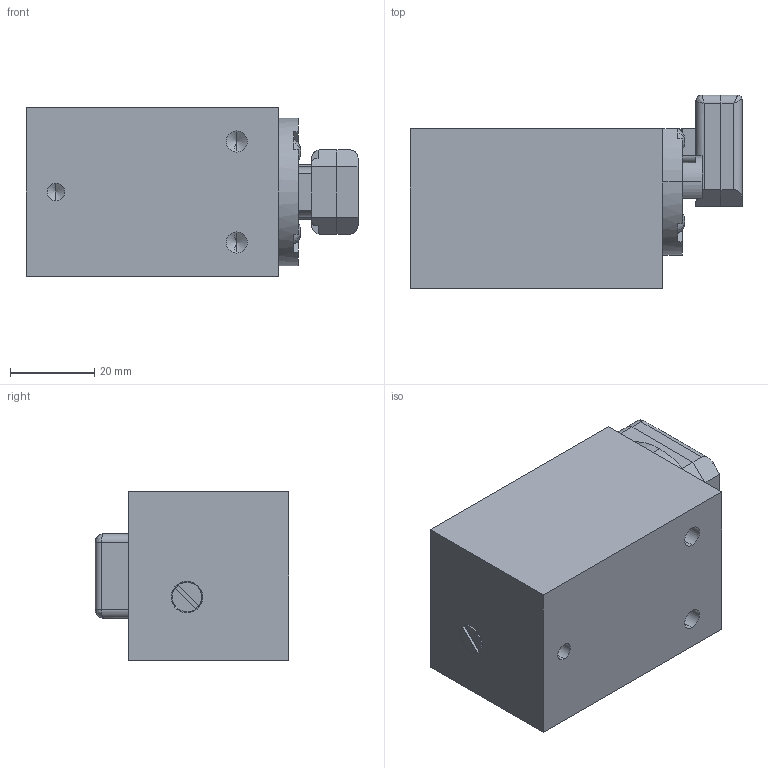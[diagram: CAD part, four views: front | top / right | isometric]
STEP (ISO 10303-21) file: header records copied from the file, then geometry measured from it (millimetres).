
FILE_DESCRIPTION (( 'STEP AP203' ), '1' );
FILE_NAME ('DBSQ-20-60-KU.STEP', '2017-01-19T13:36:16', ( 'test' ), ( '' ), 'SwSTEP 2.0', 'SolidWorks 2016', '' );
FILE_SCHEMA (( 'CONFIG_CONTROL_DESIGN' ));
Length unit declared in the file: millimetre
Products named in the file (1): DBSQ-20-60-KU
Bounding box: 78.9 x 45.99 x 40 mm (x, y, z)
Volume: 100355.5 mm3; surface area: 16805.9 mm2
Topology: 2 solids, 3 shells, 199 faces, 510 edges, 317 vertices
Faces by surface type: plane 118, cylinder 57, cone 12, sphere 8, bspline 4
Entity records: 6171 total; most frequent: CARTESIAN_POINT 1223, DIRECTION 1062, ORIENTED_EDGE 1000, EDGE_CURVE 500, AXIS2_PLACEMENT_3D 380, VERTEX_POINT 317, LINE 302, VECTOR 302
